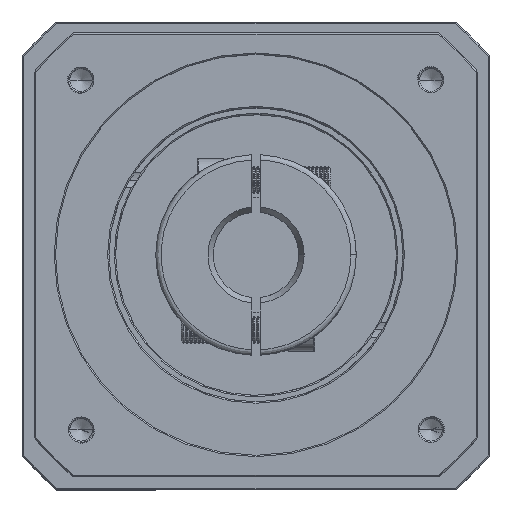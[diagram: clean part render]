
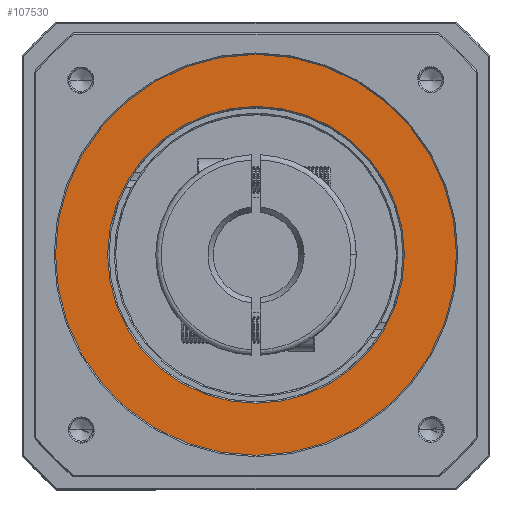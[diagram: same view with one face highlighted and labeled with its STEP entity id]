
A CAD part, top view. The second image highlights one B-rep face of the part: STEP entity #107530.
In plain terms, the highlighted planar face has unit normal (0, 0, 1).
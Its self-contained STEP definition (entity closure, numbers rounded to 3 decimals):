
#13292 = EDGE_CURVE ( 'NONE', #68747, #63473, #74973, .T. ) ;
#14120 = CARTESIAN_POINT ( 'NONE',  ( -12.479, 83.421, 22.621 ) ) ;
#14579 = CARTESIAN_POINT ( 'NONE',  ( -162.479, 83.421, 22.621 ) ) ;
#15772 = AXIS2_PLACEMENT_3D ( 'NONE', #34754, #56632, #108183 ) ;
#18827 = FACE_OUTER_BOUND ( 'NONE', #75079, .T. ) ;
#19480 = CARTESIAN_POINT ( 'NONE',  ( -142.979, 83.421, 22.621 ) ) ;
#22287 = EDGE_CURVE ( 'NONE', #109665, #100576, #83770, .T. ) ;
#24639 = CARTESIAN_POINT ( 'NONE',  ( -87.479, 83.421, 22.621 ) ) ;
#25657 = DIRECTION ( 'NONE',  ( 0., 0., -1. ) ) ;
#30219 = FACE_BOUND ( 'NONE', #68106, .T. ) ;
#33740 = PLANE ( 'NONE',  #118509 ) ;
#34754 = CARTESIAN_POINT ( 'NONE',  ( -87.479, 83.421, 22.621 ) ) ;
#35339 = EDGE_CURVE ( 'NONE', #63473, #68747, #133736, .T. ) ;
#36560 = DIRECTION ( 'NONE',  ( 0., 0., -1. ) ) ;
#37923 = CARTESIAN_POINT ( 'NONE',  ( -31.979, 83.421, 22.621 ) ) ;
#44695 = DIRECTION ( 'NONE',  ( 1., 0., 0. ) ) ;
#53633 = AXIS2_PLACEMENT_3D ( 'NONE', #116912, #25657, #118768 ) ;
#53698 = AXIS2_PLACEMENT_3D ( 'NONE', #131977, #36560, #120093 ) ;
#56632 = DIRECTION ( 'NONE',  ( 0., 0., 1. ) ) ;
#58083 = AXIS2_PLACEMENT_3D ( 'NONE', #59504, #68632, #132647 ) ;
#59504 = CARTESIAN_POINT ( 'NONE',  ( -87.479, 83.421, 22.621 ) ) ;
#63473 = VERTEX_POINT ( 'NONE', #37923 ) ;
#68106 = EDGE_LOOP ( 'NONE', ( #78821, #112768 ) ) ;
#68632 = DIRECTION ( 'NONE',  ( 0., 0., 1. ) ) ;
#68747 = VERTEX_POINT ( 'NONE', #19480 ) ;
#74973 = CIRCLE ( 'NONE', #53698, 55.5 ) ;
#75079 = EDGE_LOOP ( 'NONE', ( #97311, #134544 ) ) ;
#78424 = EDGE_CURVE ( 'NONE', #100576, #109665, #133358, .T. ) ;
#78821 = ORIENTED_EDGE ( 'NONE', *, *, #35339, .T. ) ;
#83770 = CIRCLE ( 'NONE', #15772, 75. ) ;
#97311 = ORIENTED_EDGE ( 'NONE', *, *, #78424, .T. ) ;
#100576 = VERTEX_POINT ( 'NONE', #14120 ) ;
#107530 = ADVANCED_FACE ( 'NONE', ( #30219, #18827 ), #33740, .T. ) ;
#108183 = DIRECTION ( 'NONE',  ( 1., 0., 0. ) ) ;
#109665 = VERTEX_POINT ( 'NONE', #14579 ) ;
#112768 = ORIENTED_EDGE ( 'NONE', *, *, #13292, .T. ) ;
#116912 = CARTESIAN_POINT ( 'NONE',  ( -87.479, 83.421, 22.621 ) ) ;
#118509 = AXIS2_PLACEMENT_3D ( 'NONE', #24639, #127326, #44695 ) ;
#118768 = DIRECTION ( 'NONE',  ( 1., 0., 0. ) ) ;
#120093 = DIRECTION ( 'NONE',  ( 1., 0., 0. ) ) ;
#127326 = DIRECTION ( 'NONE',  ( 0., 0., 1. ) ) ;
#131977 = CARTESIAN_POINT ( 'NONE',  ( -87.479, 83.421, 22.621 ) ) ;
#132647 = DIRECTION ( 'NONE',  ( 1., 0., 0. ) ) ;
#133358 = CIRCLE ( 'NONE', #58083, 75. ) ;
#133736 = CIRCLE ( 'NONE', #53633, 55.5 ) ;
#134544 = ORIENTED_EDGE ( 'NONE', *, *, #22287, .T. ) ;
